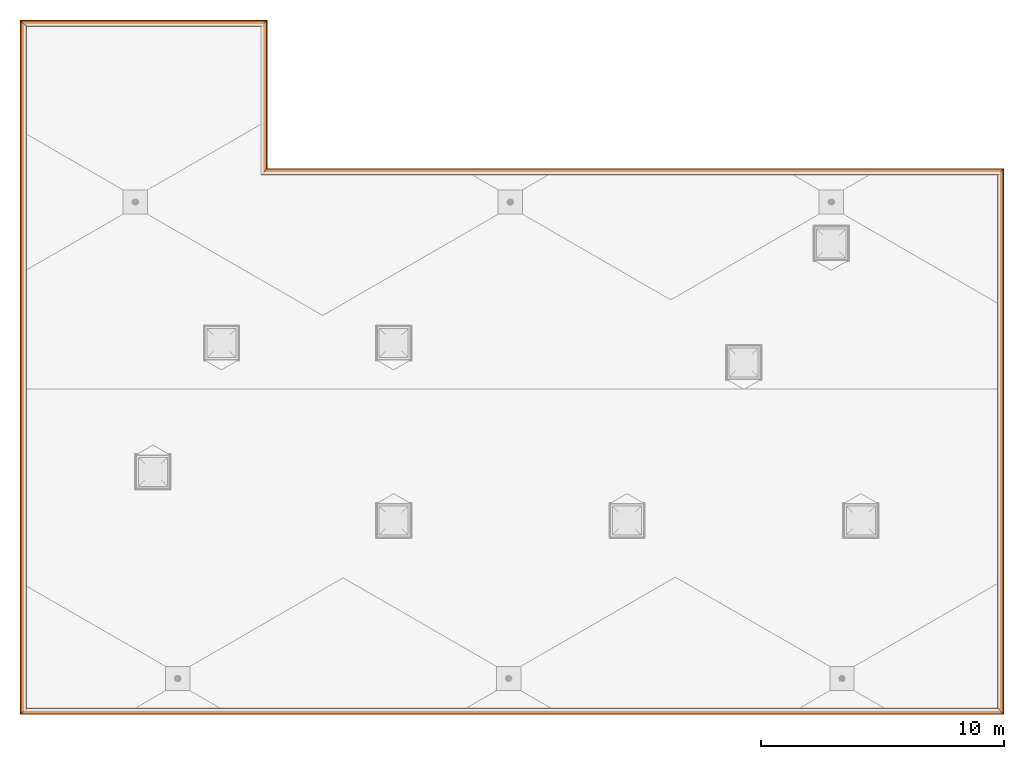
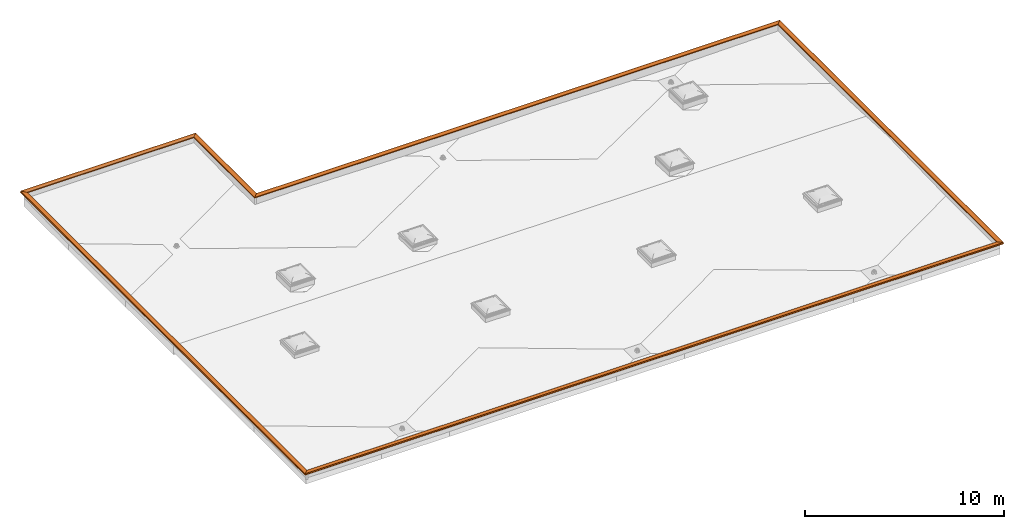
# One storey, part 5 of 5: 18 proxies.
"""IFC2X3 building model written with IfcOpenShell, lengths in millimetres."""

from ifc_helpers import new_model, entity, si_unit, converted_unit, derived_unit, direction, frame, origin, place, context, subcontext, project, spatial, faceted_brep, element, save


model = new_model("IFC2X3")

# Units and contexts
model_context = context("Model", 3, precision=0.01, world=origin(), true_north=direction((6.12303176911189e-17, 1.0)))
body_context = subcontext(model_context, "Body", "Model", "MODEL_VIEW")
ifc_project = project(units=[si_unit("LENGTHUNIT", "METRE", prefix="MILLI"), si_unit("AREAUNIT", "SQUARE_METRE"), si_unit("VOLUMEUNIT", "CUBIC_METRE"), converted_unit("PLANEANGLEUNIT", "DEGREE", entity("IfcRatioMeasure", 0.0174532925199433), si_unit("PLANEANGLEUNIT", "RADIAN"), dimensions=[0, 0, 0, 0, 0, 0, 0]), si_unit("MASSUNIT", "GRAM", prefix="KILO"), derived_unit("MASSDENSITYUNIT", [(si_unit("MASSUNIT", "GRAM", prefix="KILO"), 1), (si_unit("LENGTHUNIT", "METRE"), -3)]), si_unit("TIMEUNIT", "SECOND"), si_unit("FREQUENCYUNIT", "HERTZ"), si_unit("THERMODYNAMICTEMPERATUREUNIT", "DEGREE_CELSIUS"), derived_unit("THERMALTRANSMITTANCEUNIT", [(si_unit("MASSUNIT", "GRAM", prefix="KILO"), 1), (si_unit("THERMODYNAMICTEMPERATUREUNIT", "KELVIN"), -1), (si_unit("TIMEUNIT", "SECOND"), -3)]), derived_unit("VOLUMETRICFLOWRATEUNIT", [(si_unit("LENGTHUNIT", "METRE"), 3), (si_unit("TIMEUNIT", "SECOND"), -1)]), si_unit("ELECTRICCURRENTUNIT", "AMPERE"), si_unit("ELECTRICVOLTAGEUNIT", "VOLT"), si_unit("POWERUNIT", "WATT"), si_unit("FORCEUNIT", "NEWTON", prefix="KILO"), si_unit("ILLUMINANCEUNIT", "LUX"), si_unit("LUMINOUSFLUXUNIT", "LUMEN"), si_unit("LUMINOUSINTENSITYUNIT", "CANDELA"), derived_unit("USERDEFINED", [(si_unit("MASSUNIT", "GRAM", prefix="KILO"), -1), (si_unit("LENGTHUNIT", "METRE"), -2), (si_unit("TIMEUNIT", "SECOND"), 3), (si_unit("LUMINOUSFLUXUNIT", "LUMEN"), 1)]), derived_unit("LINEARVELOCITYUNIT", [(si_unit("LENGTHUNIT", "METRE"), 1), (si_unit("TIMEUNIT", "SECOND"), -1)]), si_unit("PRESSUREUNIT", "PASCAL"), derived_unit("USERDEFINED", [(si_unit("LENGTHUNIT", "METRE"), -2), (si_unit("MASSUNIT", "GRAM", prefix="KILO"), 1), (si_unit("TIMEUNIT", "SECOND"), -2)])], contexts=[model_context])

# Site, building, storey
site_placement = place(None, origin())
site = spatial("IfcSite", under=ifc_project, at=site_placement, Name="Default", CompositionType="ELEMENT")
building_placement = place(site_placement, origin())
building = spatial("IfcBuilding", under=site, at=building_placement, CompositionType="ELEMENT")
storey_placement = place(building_placement, frame((0.0, 0.0, 8000.0)))
storey = spatial("IfcBuildingStorey", under=building, at=storey_placement, Name="KATUS", CompositionType="ELEMENT", Elevation=8000.0)

# Proxies
proxy_1_placement = place(storey_placement, frame((-470.0, -470.0, 700.0)))
element("IfcBuildingElementProxy", 1, at=proxy_1_placement, inside=storey, context=body_context, shape_type="Brep", body=[
    faceted_brep([(0.0, 0.0, 51.3348937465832), (0.0, 0.0, 41.2939759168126), (220.0, 220.0, 21.3717536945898), (220.0, 220.0, 0.0), (230.0, 230.0, 0.0), (230.0, 230.0, 30.5071159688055), (0.0, 28539.9994344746, 51.3348937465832), (230.0, 28309.9994344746, 30.5071159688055), (230.0, 28309.9994344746, 0.0), (220.0, 28319.9994344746, 0.0), (220.0, 28319.9994344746, 21.3717536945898), (0.0, 28539.9994344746, 41.2939759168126)], [[[0, 1, 2, 3, 4, 5]], [[6, 7, 8, 9, 10, 11]], [[2, 1, 11, 10]], [[3, 2, 10, 9]], [[4, 3, 9, 8]], [[5, 4, 8, 7]], [[0, 5, 7, 6]], [[1, 0, 6, 11]]]),
])
proxy_2_placement = place(storey_placement, frame((-450.0, -450.0, 700.0)))
element("IfcBuildingElementProxy", 2, at=proxy_2_placement, inside=storey, context=body_context, shape_type="Brep", body=[
    faceted_brep([(0.0, 0.0, 38.1111111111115), (0.0, 0.0, 0.0), (200.0, 200.0, 0.0), (200.0, 200.0, 20.0), (0.0, 28499.9994344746, 38.1111111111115), (200.0, 28299.9994344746, 20.0), (200.0, 28299.9994344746, 0.0), (0.0, 28499.9994344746, 0.0)], [[[0, 1, 2, 3]], [[4, 5, 6, 7]], [[1, 0, 4, 7]], [[2, 1, 7, 6]], [[3, 2, 6, 5]], [[0, 3, 5, 4]]]),
])
proxy_3_placement = place(storey_placement, frame((-488.292893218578, -488.292893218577, 663.544444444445)))
element("IfcBuildingElementProxy", 3, at=proxy_3_placement, inside=storey, context=body_context, shape_type="Brep", body=[
    faceted_brep([(14.2928932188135, 14.2928932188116, 88.8147971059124), (272.292893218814, 272.292893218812, 65.4514637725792), (272.292893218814, 272.292893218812, 27.5114357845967), (263.393398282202, 263.3933982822, 36.4109307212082), (262.686291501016, 262.686291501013, 35.7038239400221), (273.292893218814, 273.292893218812, 25.0972222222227), (273.292893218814, 273.292893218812, 66.3650000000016), (13.2928932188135, 13.2928932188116, 89.9094444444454), (13.2928932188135, 13.2928932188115, 14.0), (0.0, 0.0, 0.707106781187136), (0.707106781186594, 0.707106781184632, 0.0), (14.2928932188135, 14.2928932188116, 13.5857864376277), (14.2928932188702, 28562.2923276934, 88.8147971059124), (14.2928932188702, 28562.2923276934, 13.5857864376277), (0.707106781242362, 28575.878114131, 0.0), (0.0, 28576.5852209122, 0.707106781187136), (13.2928932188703, 28563.2923276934, 14.0), (13.2928932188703, 28563.2923276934, 89.9094444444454), (273.292893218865, 28303.2923276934, 66.3650000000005), (273.292893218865, 28303.2923276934, 25.0972222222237), (262.686291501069, 28313.8989294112, 35.703823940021), (263.393398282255, 28313.19182263, 36.4109307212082), (272.292893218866, 28304.2923276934, 27.5114357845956), (272.292893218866, 28304.2923276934, 65.4514637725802)], [[[0, 1, 2, 3, 4, 5, 6, 7, 8, 9, 10, 11]], [[12, 13, 14, 15, 16, 17, 18, 19, 20, 21, 22, 23]], [[1, 0, 12, 23]], [[2, 1, 23, 22]], [[3, 2, 22, 21]], [[4, 3, 21, 20]], [[5, 4, 20, 19]], [[6, 5, 19, 18]], [[7, 6, 18, 17]], [[8, 7, 17, 16]], [[9, 8, 16, 15]], [[10, 9, 15, 14]], [[11, 10, 14, 13]], [[0, 11, 13, 12]]]),
])
proxy_4_placement = place(storey_placement, frame((-470.0, -470.0, 700.0)))
element("IfcBuildingElementProxy", 4, at=proxy_4_placement, inside=storey, context=body_context, shape_type="Brep", body=[
    faceted_brep([(0.0, 0.0, 51.3348937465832), (230.0, 230.0, 30.5071159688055), (230.0, 230.0, 0.0), (220.0, 220.0, 0.0), (220.0, 220.0, 21.3717536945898), (0.0, 0.0, 41.2939759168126), (40440.0, 0.0, 51.3348937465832), (40440.0, 0.0, 41.2939759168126), (40220.0, 220.0, 21.3717536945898), (40220.0, 220.0, 0.0), (40210.0, 230.0, 0.0), (40210.0, 230.0, 30.5071159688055)], [[[0, 1, 2, 3, 4, 5]], [[6, 7, 8, 9, 10, 11]], [[5, 4, 8, 7]], [[4, 3, 9, 8]], [[3, 2, 10, 9]], [[2, 1, 11, 10]], [[1, 0, 6, 11]], [[0, 5, 7, 6]]]),
])
proxy_5_placement = place(storey_placement, frame((-450.0, -450.0, 700.0)))
element("IfcBuildingElementProxy", 5, at=proxy_5_placement, inside=storey, context=body_context, shape_type="Brep", body=[
    faceted_brep([(0.0, 0.0, 38.1111111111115), (200.0, 200.0, 20.0), (200.0, 200.0, 0.0), (0.0, 0.0, 0.0), (40400.0, 0.0, 38.1111111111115), (40400.0, 0.0, 0.0), (40200.0, 200.0, 0.0), (40200.0, 200.0, 20.0)], [[[0, 1, 2, 3]], [[4, 5, 6, 7]], [[0, 3, 5, 4]], [[3, 2, 6, 5]], [[2, 1, 7, 6]], [[1, 0, 4, 7]]]),
])
proxy_6_placement = place(storey_placement, frame((-488.292893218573, -488.292893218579, 663.544444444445)))
element("IfcBuildingElementProxy", 6, at=proxy_6_placement, inside=storey, context=body_context, shape_type="Brep", body=[
    faceted_brep([(14.2928932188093, 14.2928932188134, 88.8147971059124), (14.2928932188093, 14.2928932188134, 13.5857864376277), (0.707106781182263, 0.707106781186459, 0.0), (0.0, 0.0, 0.707106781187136), (13.2928932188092, 13.2928932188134, 14.0), (13.2928932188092, 13.2928932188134, 89.9094444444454), (273.29289321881, 273.292893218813, 66.3650000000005), (273.29289321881, 273.292893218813, 25.0972222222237), (262.686291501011, 262.686291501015, 35.703823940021), (263.393398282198, 263.393398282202, 36.4109307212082), (272.29289321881, 272.292893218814, 27.5114357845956), (272.29289321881, 272.292893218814, 65.4514637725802), (40462.2928766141, 14.2928932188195, 88.8147971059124), (40204.2928766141, 272.29289321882, 65.4514637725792), (40204.2928766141, 272.29289321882, 27.5114357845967), (40213.1923715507, 263.393398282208, 36.4109307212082), (40213.8994783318, 262.686291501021, 35.7038239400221), (40203.2928766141, 273.29289321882, 25.0972222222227), (40203.2928766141, 273.29289321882, 66.3650000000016), (40463.2928766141, 13.2928932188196, 89.9094444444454), (40463.2928766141, 13.2928932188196, 14.0), (40476.5857698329, 0.0, 0.707106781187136), (40475.8786630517, 0.707106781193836, 0.0), (40462.2928766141, 14.2928932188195, 13.5857864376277)], [[[0, 1, 2, 3, 4, 5, 6, 7, 8, 9, 10, 11]], [[12, 13, 14, 15, 16, 17, 18, 19, 20, 21, 22, 23]], [[0, 11, 13, 12]], [[11, 10, 14, 13]], [[10, 9, 15, 14]], [[9, 8, 16, 15]], [[8, 7, 17, 16]], [[7, 6, 18, 17]], [[6, 5, 19, 18]], [[5, 4, 20, 19]], [[4, 3, 21, 20]], [[3, 2, 22, 21]], [[2, 1, 23, 22]], [[1, 0, 12, 23]]]),
])
proxy_7_placement = place(storey_placement, frame((-470.0, 27839.9994344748, 700.0)))
element("IfcBuildingElementProxy", 7, at=proxy_7_placement, inside=storey, context=body_context, shape_type="Brep", body=[
    faceted_brep([(10140.0, 230.0, 51.3348937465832), (9910.0, 0.0, 30.5071159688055), (9910.0, 0.0, 0.0), (9920.0, 10.0, 0.0), (9920.0, 10.0, 21.3717536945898), (10140.0, 230.0, 41.2939759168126), (0.0, 230.0, 51.3348937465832), (0.0, 230.0, 41.2939759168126), (220.0, 10.0, 21.3717536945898), (220.0, 10.0, 0.0), (230.0, 0.0, 0.0), (230.0, 0.0, 30.5071159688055)], [[[0, 1, 2, 3, 4, 5]], [[6, 7, 8, 9, 10, 11]], [[5, 4, 8, 7]], [[4, 3, 9, 8]], [[3, 2, 10, 9]], [[2, 1, 11, 10]], [[1, 0, 6, 11]], [[0, 5, 7, 6]]]),
])
proxy_8_placement = place(storey_placement, frame((-450.0, 27849.9994344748, 700.0)))
element("IfcBuildingElementProxy", 8, at=proxy_8_placement, inside=storey, context=body_context, shape_type="Brep", body=[
    faceted_brep([(10100.0, 200.0, 38.1111111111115), (9900.0, 0.0, 20.0), (9900.0, 0.0, 0.0), (10100.0, 200.0, 0.0), (0.0, 200.0, 38.1111111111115), (0.0, 200.0, 0.0), (200.0, 0.0, 0.0), (200.0, 0.0, 20.0)], [[[0, 1, 2, 3]], [[4, 5, 6, 7]], [[0, 3, 5, 4]], [[3, 2, 6, 5]], [[2, 1, 7, 6]], [[1, 0, 4, 7]]]),
])
proxy_9_placement = place(storey_placement, frame((-488.292893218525, 27814.9994344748, 663.544444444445)))
element("IfcBuildingElementProxy", 9, at=proxy_9_placement, inside=storey, context=body_context, shape_type="Brep", body=[
    faceted_brep([(10162.2928932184, 259.0, 88.8147971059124), (10162.2928932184, 259.0, 13.5857864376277), (10175.878679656, 272.585786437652, 0.0), (10176.5857864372, 273.292893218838, 0.707106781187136), (10163.2928932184, 260.0, 14.0), (10163.2928932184, 260.0, 89.9094444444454), (9903.29289321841, 0.0, 66.3650000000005), (9903.29289321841, 0.0, 25.0972222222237), (9913.89949493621, 10.6066017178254, 35.703823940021), (9913.19238815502, 9.89949493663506, 36.4109307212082), (9904.29289321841, 1.0, 27.5114357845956), (9904.29289321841, 1.0, 65.4514637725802), (14.2928932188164, 259.0, 88.8147971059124), (272.292893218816, 1.0, 65.4514637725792), (272.292893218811, 1.0, 27.5114357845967), (263.393398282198, 9.89949493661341, 36.4109307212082), (262.686291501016, 10.6066017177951, 35.7038239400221), (273.292893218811, 0.0, 25.0972222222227), (273.292893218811, 0.0, 66.3650000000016), (13.2928932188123, 260.0, 89.9094444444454), (13.2928932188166, 260.0, 14.0), (0.0, 273.292893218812, 0.707106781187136), (0.70710678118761, 272.585786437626, 0.0), (14.2928932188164, 259.0, 13.5857864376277)], [[[0, 1, 2, 3, 4, 5, 6, 7, 8, 9, 10, 11]], [[12, 13, 14, 15, 16, 17, 18, 19, 20, 21, 22, 23]], [[0, 11, 13, 12]], [[11, 10, 14, 13]], [[10, 9, 15, 14]], [[9, 8, 16, 15]], [[8, 7, 17, 16]], [[7, 6, 18, 17]], [[6, 5, 19, 18]], [[5, 4, 20, 19]], [[4, 3, 21, 20]], [[3, 2, 22, 21]], [[2, 1, 23, 22]], [[1, 0, 12, 23]]]),
])
proxy_10_placement = place(storey_placement, frame((9440.0, 21740.0, 700.0)))
element("IfcBuildingElementProxy", 10, at=proxy_10_placement, inside=storey, context=body_context, shape_type="Brep", body=[
    faceted_brep([(230.0, 6329.99943447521, 51.3348937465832), (230.0, 6329.99943447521, 41.2939759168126), (10.0, 6109.99943447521, 21.3717536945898), (10.0, 6109.99943447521, 0.0), (0.0, 6099.99943447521, 0.0), (0.0, 6099.99943447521, 30.5071159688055), (230.0, 230.0, 51.3348937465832), (0.0, 0.0, 30.5071159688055), (0.0, 0.0, 0.0), (10.0, 10.0, 0.0), (10.0, 10.0, 21.3717536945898), (230.0, 230.0, 41.2939759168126)], [[[0, 1, 2, 3, 4, 5]], [[6, 7, 8, 9, 10, 11]], [[2, 1, 11, 10]], [[3, 2, 10, 9]], [[4, 3, 9, 8]], [[5, 4, 8, 7]], [[0, 5, 7, 6]], [[1, 0, 6, 11]]]),
])
proxy_11_placement = place(storey_placement, frame((9450.0, 21750.0, 700.0)))
element("IfcBuildingElementProxy", 11, at=proxy_11_placement, inside=storey, context=body_context, shape_type="Brep", body=[
    faceted_brep([(200.0, 6299.99943447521, 38.1111111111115), (200.0, 6299.99943447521, 0.0), (0.0, 6099.99943447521, 0.0), (0.0, 6099.99943447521, 20.0), (200.0, 200.0, 38.1111111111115), (0.0, 0.0, 20.0), (0.0, 0.0, 0.0), (200.0, 200.0, 0.0)], [[[0, 1, 2, 3]], [[4, 5, 6, 7]], [[1, 0, 4, 7]], [[2, 1, 7, 6]], [[3, 2, 6, 5]], [[0, 3, 5, 4]]]),
])
proxy_12_placement = place(storey_placement, frame((9415.0, 21715.0, 663.544444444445)))
element("IfcBuildingElementProxy", 12, at=proxy_12_placement, inside=storey, context=body_context, shape_type="Brep", body=[
    faceted_brep([(259.0, 6358.9994344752, 88.8147971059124), (1.0, 6100.9994344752, 65.4514637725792), (1.0, 6100.9994344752, 27.5114357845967), (9.89949493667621, 6109.89892941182, 36.4109307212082), (10.6066017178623, 6110.606036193, 35.7038239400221), (0.0, 6099.9994344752, 25.0972222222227), (0.0, 6099.9994344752, 66.3650000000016), (260.0, 6359.9994344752, 89.9094444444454), (260.0, 6359.9994344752, 14.0), (273.292893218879, 6373.29232769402, 0.707106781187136), (272.585786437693, 6372.58522091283, 0.0), (259.0, 6358.9994344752, 13.5857864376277), (259.0, 259.0, 88.8147971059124), (259.0, 259.0, 13.5857864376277), (272.58578643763, 272.585786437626, 0.0), (273.292893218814, 273.292893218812, 0.707106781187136), (260.0, 260.0, 14.0), (260.0, 260.0, 89.9094444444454), (0.0, 0.0, 66.3650000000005), (0.0, 0.0, 25.0972222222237), (10.6066017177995, 10.6066017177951, 35.703823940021), (9.89949493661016, 9.89949493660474, 36.4109307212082), (1.0, 1.0, 27.5114357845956), (1.0, 1.0, 65.4514637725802)], [[[0, 1, 2, 3, 4, 5, 6, 7, 8, 9, 10, 11]], [[12, 13, 14, 15, 16, 17, 18, 19, 20, 21, 22, 23]], [[1, 0, 12, 23]], [[2, 1, 23, 22]], [[3, 2, 22, 21]], [[4, 3, 21, 20]], [[5, 4, 20, 19]], [[6, 5, 19, 18]], [[7, 6, 18, 17]], [[8, 7, 17, 16]], [[9, 8, 16, 15]], [[10, 9, 15, 14]], [[11, 10, 14, 13]], [[0, 11, 13, 12]]]),
])
proxy_13_placement = place(storey_placement, frame((9440.0, 21740.0, 700.0)))
element("IfcBuildingElementProxy", 13, at=proxy_13_placement, inside=storey, context=body_context, shape_type="Brep", body=[
    faceted_brep([(30530.0, 230.0, 51.3348937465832), (30300.0, 0.0, 30.5071159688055), (30300.0, 0.0, 0.0), (30310.0, 10.0, 0.0), (30310.0, 10.0, 21.3717536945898), (30530.0, 230.0, 41.2939759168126), (230.0, 230.0, 51.3348937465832), (230.0, 230.0, 41.2939759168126), (10.0, 10.0, 21.3717536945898), (10.0, 10.0, 0.0), (0.0, 0.0, 0.0), (0.0, 0.0, 30.5071159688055)], [[[0, 1, 2, 3, 4, 5]], [[6, 7, 8, 9, 10, 11]], [[5, 4, 8, 7]], [[4, 3, 9, 8]], [[3, 2, 10, 9]], [[2, 1, 11, 10]], [[1, 0, 6, 11]], [[0, 5, 7, 6]]]),
])
proxy_14_placement = place(storey_placement, frame((9450.0, 21750.0, 700.0)))
element("IfcBuildingElementProxy", 14, at=proxy_14_placement, inside=storey, context=body_context, shape_type="Brep", body=[
    faceted_brep([(30500.0, 200.0, 38.1111111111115), (30300.0, 0.0, 20.0), (30300.0, 0.0, 0.0), (30500.0, 200.0, 0.0), (200.0, 200.0, 38.1111111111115), (200.0, 200.0, 0.0), (0.0, 0.0, 0.0), (0.0, 0.0, 20.0)], [[[0, 1, 2, 3]], [[4, 5, 6, 7]], [[0, 3, 5, 4]], [[3, 2, 6, 5]], [[2, 1, 7, 6]], [[1, 0, 4, 7]]]),
])
proxy_15_placement = place(storey_placement, frame((9415.0, 21715.0, 663.544444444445)))
element("IfcBuildingElementProxy", 15, at=proxy_15_placement, inside=storey, context=body_context, shape_type="Brep", body=[
    faceted_brep([(30559.0, 259.0, 88.8147971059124), (30559.0, 259.0, 13.5857864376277), (30572.5857698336, 272.585786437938, 0.0), (30573.2928766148, 273.292893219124, 0.707106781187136), (30560.0, 260.0, 14.0), (30560.0, 260.0, 89.9094444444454), (30300.0, 0.0, 66.3650000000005), (30300.0, 0.0, 25.0972222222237), (30310.6065851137, 10.6066017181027, 35.703823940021), (30309.8994783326, 9.89949493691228, 36.4109307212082), (30301.0, 1.0, 27.5114357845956), (30301.0, 1.0, 65.4514637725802), (259.0, 259.0, 88.8147971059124), (1.0, 1.0, 65.4514637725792), (1.0, 1.0, 27.5114357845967), (9.89949493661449, 9.89949493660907, 36.4109307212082), (10.606601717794, 10.6066017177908, 35.7038239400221), (0.0, 0.0, 25.0972222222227), (0.0, 0.0, 66.3650000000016), (260.0, 260.0, 89.9094444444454), (260.0, 260.0, 14.0), (273.292893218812, 273.292893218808, 0.707106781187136), (272.585786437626, 272.585786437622, 0.0), (259.0, 259.0, 13.5857864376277)], [[[0, 1, 2, 3, 4, 5, 6, 7, 8, 9, 10, 11]], [[12, 13, 14, 15, 16, 17, 18, 19, 20, 21, 22, 23]], [[0, 11, 13, 12]], [[11, 10, 14, 13]], [[10, 9, 15, 14]], [[9, 8, 16, 15]], [[8, 7, 17, 16]], [[7, 6, 18, 17]], [[6, 5, 19, 18]], [[5, 4, 20, 19]], [[4, 3, 21, 20]], [[3, 2, 22, 21]], [[2, 1, 23, 22]], [[1, 0, 12, 23]]]),
])
proxy_16_placement = place(storey_placement, frame((39740.0, -470.0, 700.0)))
element("IfcBuildingElementProxy", 16, at=proxy_16_placement, inside=storey, context=body_context, shape_type="Brep", body=[
    faceted_brep([(230.0, 22440.0, 51.3348937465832), (230.0, 22440.0, 41.2939759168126), (10.0, 22220.0, 21.3717536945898), (10.0, 22220.0, 0.0), (0.0, 22210.0, 0.0), (0.0, 22210.0, 30.5071159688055), (230.0, 0.0, 51.3348937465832), (0.0, 230.0, 30.5071159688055), (0.0, 230.0, 0.0), (10.0, 220.0, 0.0), (10.0, 220.0, 21.3717536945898), (230.0, 0.0, 41.2939759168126)], [[[0, 1, 2, 3, 4, 5]], [[6, 7, 8, 9, 10, 11]], [[2, 1, 11, 10]], [[3, 2, 10, 9]], [[4, 3, 9, 8]], [[5, 4, 8, 7]], [[0, 5, 7, 6]], [[1, 0, 6, 11]]]),
])
proxy_17_placement = place(storey_placement, frame((39750.0, -450.0, 700.0)))
element("IfcBuildingElementProxy", 17, at=proxy_17_placement, inside=storey, context=body_context, shape_type="Brep", body=[
    faceted_brep([(200.0, 22400.0, 38.1111111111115), (200.0, 22400.0, 0.0), (0.0, 22200.0, 0.0), (0.0, 22200.0, 20.0), (200.0, 0.0, 38.1111111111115), (0.0, 200.0, 20.0), (0.0, 200.0, 0.0), (200.0, 0.0, 0.0)], [[[0, 1, 2, 3]], [[4, 5, 6, 7]], [[1, 0, 4, 7]], [[2, 1, 7, 6]], [[3, 2, 6, 5]], [[0, 3, 5, 4]]]),
])
proxy_18_placement = place(storey_placement, frame((39715.0, -488.29289321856, 663.544444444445)))
element("IfcBuildingElementProxy", 18, at=proxy_18_placement, inside=storey, context=body_context, shape_type="Brep", body=[
    faceted_brep([(259.0, 22462.2928932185, 88.8147971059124), (1.0, 22204.2928932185, 65.4514637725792), (1.0, 22204.2928932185, 27.5114357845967), (9.89949493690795, 22213.1923881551, 36.4109307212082), (10.606601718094, 22213.8994949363, 35.7038239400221), (0.0, 22203.2928932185, 25.0972222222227), (0.0, 22203.2928932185, 66.3650000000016), (260.0, 22463.2928932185, 89.9094444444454), (260.0, 22463.2928932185, 14.0), (273.292893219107, 22476.5857864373, 0.707106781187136), (272.585786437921, 22475.8786796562, 0.0), (259.0, 22462.2928932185, 13.5857864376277), (259.0, 14.2928932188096, 88.8147971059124), (259.0, 14.2928932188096, 13.5857864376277), (272.585786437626, 0.707106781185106, 0.0), (273.292893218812, 0.0, 0.707106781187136), (260.0, 13.2928932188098, 14.0), (260.0, 13.2928932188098, 89.9094444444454), (0.0, 273.292893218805, 66.3650000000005), (0.0, 273.292893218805, 25.0972222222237), (10.6066017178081, 262.686291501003, 35.703823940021), (9.89949493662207, 263.393398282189, 36.4109307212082), (1.0, 272.292893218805, 27.5114357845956), (1.0, 272.292893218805, 65.4514637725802)], [[[0, 1, 2, 3, 4, 5, 6, 7, 8, 9, 10, 11]], [[12, 13, 14, 15, 16, 17, 18, 19, 20, 21, 22, 23]], [[1, 0, 12, 23]], [[2, 1, 23, 22]], [[3, 2, 22, 21]], [[4, 3, 21, 20]], [[5, 4, 20, 19]], [[6, 5, 19, 18]], [[7, 6, 18, 17]], [[8, 7, 17, 16]], [[9, 8, 16, 15]], [[10, 9, 15, 14]], [[11, 10, 14, 13]], [[0, 11, 13, 12]]]),
])

save(model, "model.ifc")
